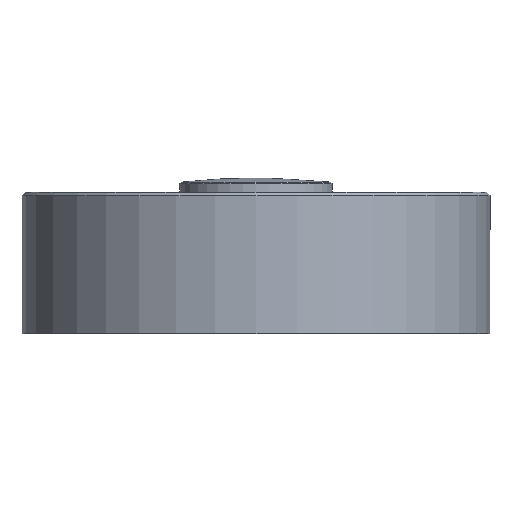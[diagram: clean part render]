
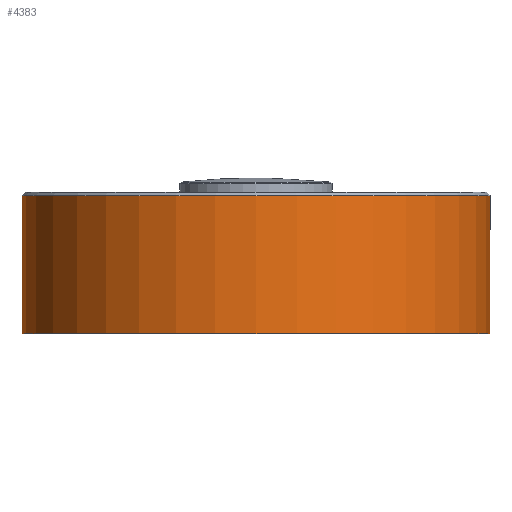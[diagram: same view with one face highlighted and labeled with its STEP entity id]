
A CAD part, left-side view. The second image highlights one B-rep face of the part: STEP entity #4383.
In plain terms, the highlighted cylindrical face has radius 52.375 mm (diameter 104.75 mm), a partial arc.
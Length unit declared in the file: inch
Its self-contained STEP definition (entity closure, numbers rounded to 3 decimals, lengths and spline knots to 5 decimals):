
#103 = CARTESIAN_POINT ( 'NONE',  ( 0., 2.062, -0.03 ) ) ;
#782 = CIRCLE ( 'NONE', #784, 2.062 ) ;
#784 = AXIS2_PLACEMENT_3D ( 'NONE', #785, #786, #787 ) ;
#785 = CARTESIAN_POINT ( 'NONE',  ( 0., 0., -1.249 ) ) ;
#786 = DIRECTION ( 'NONE',  ( 0., 0., 1. ) ) ;
#787 = DIRECTION ( 'NONE',  ( 0., 1., 0. ) ) ;
#823 = CARTESIAN_POINT ( 'NONE',  ( 0., -2.062, -1.249 ) ) ;
#1052 = LINE ( 'NONE', #1053, #1054 ) ;
#1053 = CARTESIAN_POINT ( 'NONE',  ( 0., -2.062, -0.03 ) ) ;
#1054 = VECTOR ( 'NONE', #1055, 39.37008 ) ;
#1055 = DIRECTION ( 'NONE',  ( 0., 0., -1. ) ) ;
#1522 = CARTESIAN_POINT ( 'NONE',  ( -2.062, 0., -1.249 ) ) ;
#2118 = CIRCLE ( 'NONE', #2119, 2.062 ) ;
#2119 = AXIS2_PLACEMENT_3D ( 'NONE', #2120, #2124, #2125 ) ;
#2120 = CARTESIAN_POINT ( 'NONE',  ( 0., 0., -0.03 ) ) ;
#2124 = DIRECTION ( 'NONE',  ( 0., 0., 1. ) ) ;
#2125 = DIRECTION ( 'NONE',  ( -1., 0., 0. ) ) ;
#2983 = FACE_OUTER_BOUND ( 'NONE', #4357, .T. ) ;
#2984 = CYLINDRICAL_SURFACE ( 'NONE', #2985, 2.062 ) ;
#2985 = AXIS2_PLACEMENT_3D ( 'NONE', #2986, #2987, #2988 ) ;
#2986 = CARTESIAN_POINT ( 'NONE',  ( 0., 0., -0.03 ) ) ;
#2987 = DIRECTION ( 'NONE',  ( 0., 0., -1. ) ) ;
#2988 = DIRECTION ( 'NONE',  ( 0., 1., 0. ) ) ;
#3000 = VERTEX_POINT ( 'NONE', #103 ) ;
#3188 = CIRCLE ( 'NONE', #3189, 2.062 ) ;
#3189 = AXIS2_PLACEMENT_3D ( 'NONE', #3190, #3191, #3192 ) ;
#3190 = CARTESIAN_POINT ( 'NONE',  ( 0., 0., -1.249 ) ) ;
#3191 = DIRECTION ( 'NONE',  ( 0., 0., 1. ) ) ;
#3192 = DIRECTION ( 'NONE',  ( 0., 1., 0. ) ) ;
#3749 = CARTESIAN_POINT ( 'NONE',  ( 0., -2.062, -0.03 ) ) ;
#3949 = EDGE_CURVE ( 'NONE', #4838, #4062, #782, .T. ) ;
#3958 = VERTEX_POINT ( 'NONE', #823 ) ;
#3964 = ORIENTED_EDGE ( 'NONE', *, *, #3949, .T. ) ;
#3980 = EDGE_CURVE ( 'NONE', #4540, #3958, #1052, .T. ) ;
#4032 = ORIENTED_EDGE ( 'NONE', *, *, #4713, .T. ) ;
#4062 = VERTEX_POINT ( 'NONE', #1522 ) ;
#4197 = EDGE_CURVE ( 'NONE', #3000, #4540, #2118, .T. ) ;
#4220 = ORIENTED_EDGE ( 'NONE', *, *, #4197, .F. ) ;
#4286 = ORIENTED_EDGE ( 'NONE', *, *, #3980, .F. ) ;
#4357 = EDGE_LOOP ( 'NONE', ( #4286, #4220, #4032, #3964, #5446 ) ) ;
#4383 = ADVANCED_FACE ( 'NONE', ( #2983 ), #2984, .T. ) ;
#4540 = VERTEX_POINT ( 'NONE', #3749 ) ;
#4713 = EDGE_CURVE ( 'NONE', #3000, #4838, #5974, .T. ) ;
#4838 = VERTEX_POINT ( 'NONE', #6627 ) ;
#5446 = ORIENTED_EDGE ( 'NONE', *, *, #6087, .T. ) ;
#5974 = LINE ( 'NONE', #5975, #5976 ) ;
#5975 = CARTESIAN_POINT ( 'NONE',  ( 0., 2.062, -0.03 ) ) ;
#5976 = VECTOR ( 'NONE', #5977, 39.37008 ) ;
#5977 = DIRECTION ( 'NONE',  ( 0., 0., -1. ) ) ;
#6087 = EDGE_CURVE ( 'NONE', #4062, #3958, #3188, .T. ) ;
#6627 = CARTESIAN_POINT ( 'NONE',  ( 0., 2.062, -1.249 ) ) ;
